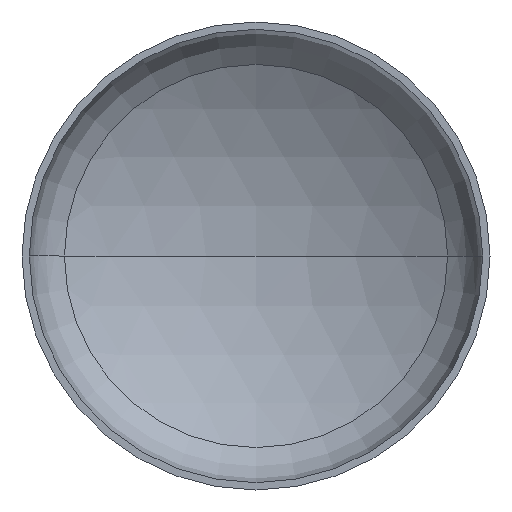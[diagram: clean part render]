
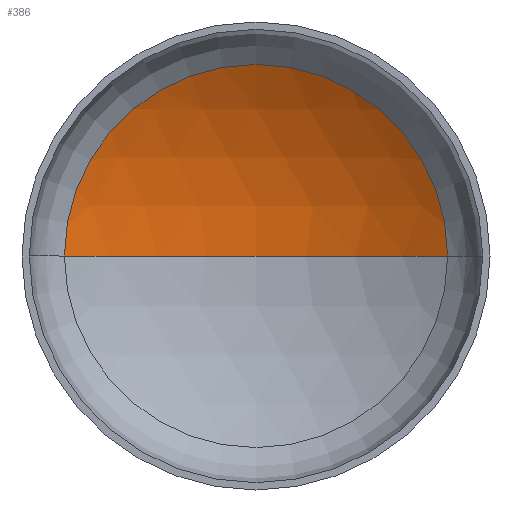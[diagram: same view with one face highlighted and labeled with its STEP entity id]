
A CAD part, front view. The second image highlights one B-rep face of the part: STEP entity #386.
In plain terms, the highlighted spherical face has radius 1120 mm.
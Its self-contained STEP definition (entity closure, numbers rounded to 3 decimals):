
#2 = AXIS2_PLACEMENT_3D ( 'NONE', #307, #355, #164 ) ;
#7 = CARTESIAN_POINT ( 'NONE',  ( 0., 254.733, 0. ) ) ;
#9 = AXIS2_PLACEMENT_3D ( 'NONE', #375, #308, #243 ) ;
#26 = EDGE_LOOP ( 'NONE', ( #150, #40, #143 ) ) ;
#36 = AXIS2_PLACEMENT_3D ( 'NONE', #7, #279, #353 ) ;
#40 = ORIENTED_EDGE ( 'NONE', *, *, #344, .T. ) ;
#41 = VERTEX_POINT ( 'NONE', #282 ) ;
#100 = EDGE_CURVE ( 'NONE', #41, #151, #332, .T. ) ;
#123 = AXIS2_PLACEMENT_3D ( 'NONE', #288, #365, #361 ) ;
#139 = VERTEX_POINT ( 'NONE', #208 ) ;
#143 = ORIENTED_EDGE ( 'NONE', *, *, #100, .T. ) ;
#150 = ORIENTED_EDGE ( 'NONE', *, *, #347, .F. ) ;
#151 = VERTEX_POINT ( 'NONE', #168 ) ;
#153 = FACE_OUTER_BOUND ( 'NONE', #26, .T. ) ;
#164 = DIRECTION ( 'NONE',  ( 1., 0., 0. ) ) ;
#168 = CARTESIAN_POINT ( 'NONE',  ( -572.994, 254.733, 0. ) ) ;
#208 = CARTESIAN_POINT ( 'NONE',  ( 0., 412.404, 0. ) ) ;
#243 = DIRECTION ( 'NONE',  ( -1., 0., 0. ) ) ;
#275 = SPHERICAL_SURFACE ( 'NONE', #123, 1120. ) ;
#279 = DIRECTION ( 'NONE',  ( 0., -1., 0. ) ) ;
#282 = CARTESIAN_POINT ( 'NONE',  ( 572.994, 254.733, 0. ) ) ;
#288 = CARTESIAN_POINT ( 'NONE',  ( 0., -707.596, 0. ) ) ;
#289 = CIRCLE ( 'NONE', #2, 1120. ) ;
#299 = CIRCLE ( 'NONE', #9, 1120. ) ;
#307 = CARTESIAN_POINT ( 'NONE',  ( 0., -707.596, 0. ) ) ;
#308 = DIRECTION ( 'NONE',  ( 0., 0., -1. ) ) ;
#332 = CIRCLE ( 'NONE', #36, 572.994 ) ;
#344 = EDGE_CURVE ( 'NONE', #139, #41, #299, .T. ) ;
#347 = EDGE_CURVE ( 'NONE', #139, #151, #289, .T. ) ;
#353 = DIRECTION ( 'NONE',  ( 1., 0., 0. ) ) ;
#355 = DIRECTION ( 'NONE',  ( 0., 0., 1. ) ) ;
#361 = DIRECTION ( 'NONE',  ( -1., 0., 0. ) ) ;
#365 = DIRECTION ( 'NONE',  ( 0., 0., -1. ) ) ;
#375 = CARTESIAN_POINT ( 'NONE',  ( 0., -707.596, 0. ) ) ;
#386 = ADVANCED_FACE ( 'NONE', ( #153 ), #275, .F. ) ;
